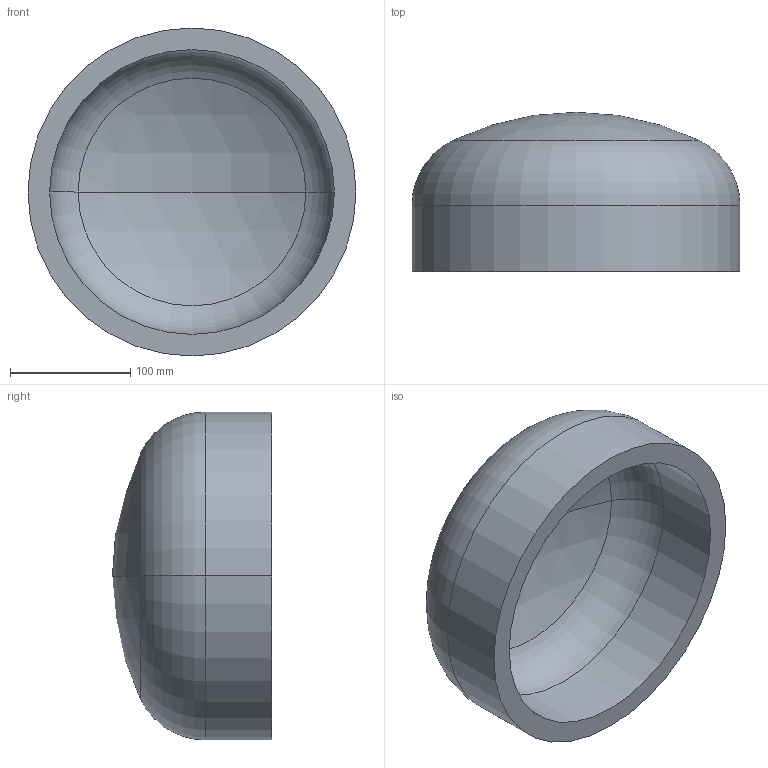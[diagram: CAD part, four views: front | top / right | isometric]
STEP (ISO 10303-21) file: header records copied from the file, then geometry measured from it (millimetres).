
FILE_DESCRIPTION (( 'STEP AP203' ), '1' );
FILE_NAME ('DIN 28013 Korbbogenform_-_Boden DIN 28013 - 273 x 55 - I - s=18.step', '2016-07-01T07:43:20', ( '' ), ( '' ), 'SwSTEP 2.0', 'SolidWorks 2013', '' );
FILE_SCHEMA (( 'CONFIG_CONTROL_DESIGN' ));
Length unit declared in the file: millimetre
Products named in the file (1): DIN 28013 Korbbogenform_-_Boden DIN 28013 - 273 x 55 - I - s=18
Bounding box: 273 x 132.5 x 273 mm (x, y, z)
Volume: 2135084.9 mm3; surface area: 252330.1 mm2
Topology: 1 solids, 1 shells, 13 faces, 24 edges, 14 vertices
Faces by surface type: torus 4, cylinder 4, sphere 4, plane 1
Entity records: 407 total; most frequent: DIRECTION 72, CARTESIAN_POINT 52, ORIENTED_EDGE 48, AXIS2_PLACEMENT_3D 34, EDGE_CURVE 24, CIRCLE 20, VERTEX_POINT 14, EDGE_LOOP 14
